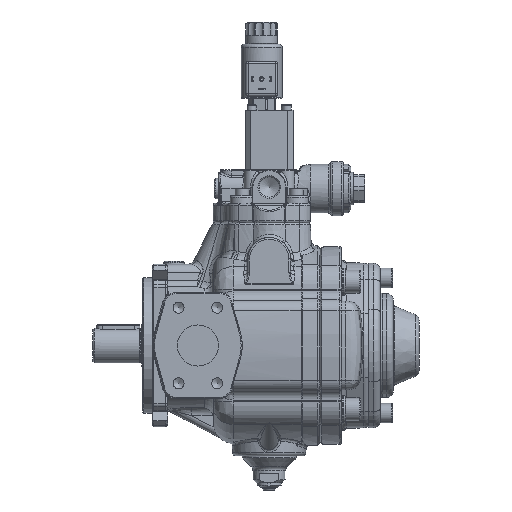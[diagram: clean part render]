
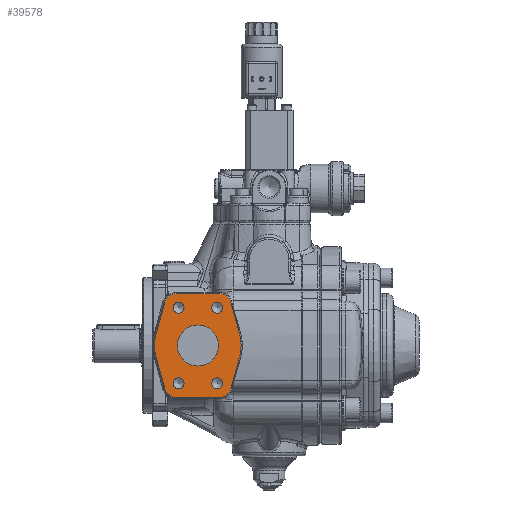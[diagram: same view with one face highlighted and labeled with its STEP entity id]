
A CAD part, left-side view. The second image highlights one B-rep face of the part: STEP entity #39578.
In plain terms, the highlighted planar face has unit normal (-1, 0, 0).
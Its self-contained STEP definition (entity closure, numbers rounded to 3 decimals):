
#2675=LINE('',#80279,#4959);
#2676=LINE('',#80283,#4960);
#2677=LINE('',#80287,#4961);
#2678=LINE('',#80291,#4962);
#2679=LINE('',#80295,#4963);
#2680=LINE('',#80299,#4964);
#4959=VECTOR('',#51095,10.);
#4960=VECTOR('',#51098,10.);
#4961=VECTOR('',#51101,10.);
#4962=VECTOR('',#51104,10.);
#4963=VECTOR('',#51107,10.);
#4964=VECTOR('',#51110,10.);
#6231=FACE_BOUND('',#11048,.T.);
#6232=FACE_BOUND('',#11049,.T.);
#6233=FACE_BOUND('',#11050,.T.);
#6234=FACE_BOUND('',#11051,.T.);
#6235=FACE_BOUND('',#11052,.T.);
#6815=PLANE('',#42885);
#8712=FACE_OUTER_BOUND('',#11047,.T.);
#11047=EDGE_LOOP('',(#32076,#32077,#32078,#32079,#32080,#32081,#32082,#32083,
#32084,#32085,#32086,#32087));
#11048=EDGE_LOOP('',(#32088));
#11049=EDGE_LOOP('',(#32089,#32090));
#11050=EDGE_LOOP('',(#32091,#32092));
#11051=EDGE_LOOP('',(#32093,#32094));
#11052=EDGE_LOOP('',(#32095,#32096));
#13356=CIRCLE('',#41576,19.);
#13539=CIRCLE('',#41873,5.053);
#13540=CIRCLE('',#41874,5.053);
#13543=CIRCLE('',#41879,5.053);
#13544=CIRCLE('',#41880,5.053);
#13547=CIRCLE('',#41885,5.053);
#13548=CIRCLE('',#41886,5.053);
#13551=CIRCLE('',#41891,5.053);
#13552=CIRCLE('',#41892,5.053);
#14132=CIRCLE('',#42886,11.);
#14133=CIRCLE('',#42887,40.);
#14134=CIRCLE('',#42888,11.);
#14135=CIRCLE('',#42889,11.);
#14136=CIRCLE('',#42890,40.);
#14137=CIRCLE('',#42891,11.);
#16190=VERTEX_POINT('',#64334);
#16398=VERTEX_POINT('',#66000);
#16399=VERTEX_POINT('',#66001);
#16403=VERTEX_POINT('',#66013);
#16404=VERTEX_POINT('',#66014);
#16408=VERTEX_POINT('',#66026);
#16409=VERTEX_POINT('',#66027);
#16413=VERTEX_POINT('',#66039);
#16414=VERTEX_POINT('',#66040);
#17361=VERTEX_POINT('',#80277);
#17362=VERTEX_POINT('',#80278);
#17363=VERTEX_POINT('',#80280);
#17364=VERTEX_POINT('',#80282);
#17365=VERTEX_POINT('',#80284);
#17366=VERTEX_POINT('',#80286);
#17367=VERTEX_POINT('',#80288);
#17368=VERTEX_POINT('',#80290);
#17369=VERTEX_POINT('',#80292);
#17370=VERTEX_POINT('',#80294);
#17371=VERTEX_POINT('',#80296);
#17372=VERTEX_POINT('',#80298);
#20497=EDGE_CURVE('',#16190,#16190,#13356,.T.);
#20827=EDGE_CURVE('',#16398,#16399,#13539,.T.);
#20828=EDGE_CURVE('',#16399,#16398,#13540,.T.);
#20833=EDGE_CURVE('',#16403,#16404,#13543,.T.);
#20834=EDGE_CURVE('',#16404,#16403,#13544,.T.);
#20839=EDGE_CURVE('',#16408,#16409,#13547,.T.);
#20840=EDGE_CURVE('',#16409,#16408,#13548,.T.);
#20845=EDGE_CURVE('',#16413,#16414,#13551,.T.);
#20846=EDGE_CURVE('',#16414,#16413,#13552,.T.);
#22471=EDGE_CURVE('',#17361,#17362,#2675,.T.);
#22472=EDGE_CURVE('',#17363,#17361,#14132,.T.);
#22473=EDGE_CURVE('',#17364,#17363,#2676,.T.);
#22474=EDGE_CURVE('',#17365,#17364,#14133,.T.);
#22475=EDGE_CURVE('',#17366,#17365,#2677,.T.);
#22476=EDGE_CURVE('',#17367,#17366,#14134,.T.);
#22477=EDGE_CURVE('',#17368,#17367,#2678,.T.);
#22478=EDGE_CURVE('',#17369,#17368,#14135,.T.);
#22479=EDGE_CURVE('',#17370,#17369,#2679,.T.);
#22480=EDGE_CURVE('',#17371,#17370,#14136,.T.);
#22481=EDGE_CURVE('',#17372,#17371,#2680,.T.);
#22482=EDGE_CURVE('',#17362,#17372,#14137,.T.);
#32076=ORIENTED_EDGE('',*,*,#22471,.F.);
#32077=ORIENTED_EDGE('',*,*,#22472,.F.);
#32078=ORIENTED_EDGE('',*,*,#22473,.F.);
#32079=ORIENTED_EDGE('',*,*,#22474,.F.);
#32080=ORIENTED_EDGE('',*,*,#22475,.F.);
#32081=ORIENTED_EDGE('',*,*,#22476,.F.);
#32082=ORIENTED_EDGE('',*,*,#22477,.F.);
#32083=ORIENTED_EDGE('',*,*,#22478,.F.);
#32084=ORIENTED_EDGE('',*,*,#22479,.F.);
#32085=ORIENTED_EDGE('',*,*,#22480,.F.);
#32086=ORIENTED_EDGE('',*,*,#22481,.F.);
#32087=ORIENTED_EDGE('',*,*,#22482,.F.);
#32088=ORIENTED_EDGE('',*,*,#20497,.T.);
#32089=ORIENTED_EDGE('',*,*,#20827,.T.);
#32090=ORIENTED_EDGE('',*,*,#20828,.T.);
#32091=ORIENTED_EDGE('',*,*,#20833,.T.);
#32092=ORIENTED_EDGE('',*,*,#20834,.T.);
#32093=ORIENTED_EDGE('',*,*,#20839,.T.);
#32094=ORIENTED_EDGE('',*,*,#20840,.T.);
#32095=ORIENTED_EDGE('',*,*,#20845,.T.);
#32096=ORIENTED_EDGE('',*,*,#20846,.T.);
#39578=ADVANCED_FACE('',(#8712,#6231,#6232,#6233,#6234,#6235),#6815,.F.);
#41576=AXIS2_PLACEMENT_3D('',#64335,#47878,#47879);
#41873=AXIS2_PLACEMENT_3D('',#66002,#48557,#48558);
#41874=AXIS2_PLACEMENT_3D('',#66003,#48559,#48560);
#41879=AXIS2_PLACEMENT_3D('',#66015,#48571,#48572);
#41880=AXIS2_PLACEMENT_3D('',#66016,#48573,#48574);
#41885=AXIS2_PLACEMENT_3D('',#66028,#48585,#48586);
#41886=AXIS2_PLACEMENT_3D('',#66029,#48587,#48588);
#41891=AXIS2_PLACEMENT_3D('',#66041,#48599,#48600);
#41892=AXIS2_PLACEMENT_3D('',#66042,#48601,#48602);
#42885=AXIS2_PLACEMENT_3D('',#80276,#51093,#51094);
#42886=AXIS2_PLACEMENT_3D('',#80281,#51096,#51097);
#42887=AXIS2_PLACEMENT_3D('',#80285,#51099,#51100);
#42888=AXIS2_PLACEMENT_3D('',#80289,#51102,#51103);
#42889=AXIS2_PLACEMENT_3D('',#80293,#51105,#51106);
#42890=AXIS2_PLACEMENT_3D('',#80297,#51108,#51109);
#42891=AXIS2_PLACEMENT_3D('',#80300,#51111,#51112);
#47878=DIRECTION('center_axis',(1.,0.,0.));
#47879=DIRECTION('ref_axis',(0.,-1.,0.));
#48557=DIRECTION('center_axis',(1.,0.,0.));
#48558=DIRECTION('ref_axis',(0.,0.,1.));
#48559=DIRECTION('center_axis',(1.,0.,0.));
#48560=DIRECTION('ref_axis',(0.,0.,1.));
#48571=DIRECTION('center_axis',(1.,0.,0.));
#48572=DIRECTION('ref_axis',(0.,0.,1.));
#48573=DIRECTION('center_axis',(1.,0.,0.));
#48574=DIRECTION('ref_axis',(0.,0.,1.));
#48585=DIRECTION('center_axis',(1.,0.,0.));
#48586=DIRECTION('ref_axis',(0.,0.,1.));
#48587=DIRECTION('center_axis',(1.,0.,0.));
#48588=DIRECTION('ref_axis',(0.,0.,1.));
#48599=DIRECTION('center_axis',(1.,0.,0.));
#48600=DIRECTION('ref_axis',(0.,0.,1.));
#48601=DIRECTION('center_axis',(1.,0.,0.));
#48602=DIRECTION('ref_axis',(0.,0.,1.));
#51093=DIRECTION('center_axis',(1.,0.,0.));
#51094=DIRECTION('ref_axis',(0.,0.,-1.));
#51095=DIRECTION('',(0.,1.,0.));
#51096=DIRECTION('center_axis',(1.,0.,0.));
#51097=DIRECTION('ref_axis',(0.,-0.964,-0.267));
#51098=DIRECTION('',(0.,0.267,-0.964));
#51099=DIRECTION('center_axis',(1.,0.,0.));
#51100=DIRECTION('ref_axis',(0.,-0.964,0.267));
#51101=DIRECTION('',(0.,-0.267,-0.964));
#51102=DIRECTION('center_axis',(1.,0.,0.));
#51103=DIRECTION('ref_axis',(0.,0.,1.));
#51104=DIRECTION('',(0.,-1.,0.));
#51105=DIRECTION('center_axis',(1.,0.,0.));
#51106=DIRECTION('ref_axis',(0.,0.964,0.267));
#51107=DIRECTION('',(0.,-0.267,0.964));
#51108=DIRECTION('center_axis',(1.,0.,0.));
#51109=DIRECTION('ref_axis',(0.,0.964,-0.267));
#51110=DIRECTION('',(0.,0.267,0.964));
#51111=DIRECTION('center_axis',(1.,0.,0.));
#51112=DIRECTION('ref_axis',(0.,0.,-1.));
#64334=CARTESIAN_POINT('',(-98.542,48.778,-9.476));
#64335=CARTESIAN_POINT('Origin',(-98.542,29.778,-9.476));
#66000=CARTESIAN_POINT('',(-98.542,47.628,-39.373));
#66001=CARTESIAN_POINT('',(-98.542,47.628,-49.479));
#66002=CARTESIAN_POINT('Origin',(-98.542,47.628,-44.426));
#66003=CARTESIAN_POINT('Origin',(-98.542,47.628,-44.426));
#66013=CARTESIAN_POINT('',(-98.542,11.928,30.527));
#66014=CARTESIAN_POINT('',(-98.542,11.928,20.421));
#66015=CARTESIAN_POINT('Origin',(-98.542,11.928,25.474));
#66016=CARTESIAN_POINT('Origin',(-98.542,11.928,25.474));
#66026=CARTESIAN_POINT('',(-98.542,47.628,30.527));
#66027=CARTESIAN_POINT('',(-98.542,47.628,20.421));
#66028=CARTESIAN_POINT('Origin',(-98.542,47.628,25.474));
#66029=CARTESIAN_POINT('Origin',(-98.542,47.628,25.474));
#66039=CARTESIAN_POINT('',(-98.542,11.928,-39.373));
#66040=CARTESIAN_POINT('',(-98.542,11.928,-49.479));
#66041=CARTESIAN_POINT('Origin',(-98.542,11.928,-44.426));
#66042=CARTESIAN_POINT('Origin',(-98.542,11.928,-44.426));
#80276=CARTESIAN_POINT('Origin',(-98.542,29.778,-9.476));
#80277=CARTESIAN_POINT('',(-98.542,9.928,-57.476));
#80278=CARTESIAN_POINT('',(-98.542,49.628,-57.476));
#80279=CARTESIAN_POINT('',(-98.542,19.853,-57.476));
#80280=CARTESIAN_POINT('',(-98.542,-0.673,-49.41));
#80281=CARTESIAN_POINT('Origin',(-98.542,9.928,-46.476));
#80282=CARTESIAN_POINT('',(-98.542,-8.772,-20.145));
#80283=CARTESIAN_POINT('',(-98.542,-8.772,-20.145));
#80284=CARTESIAN_POINT('',(-98.542,-8.772,1.194));
#80285=CARTESIAN_POINT('Origin',(-98.542,29.778,-9.476));
#80286=CARTESIAN_POINT('',(-98.542,-0.673,30.458));
#80287=CARTESIAN_POINT('',(-98.542,-4.723,15.826));
#80288=CARTESIAN_POINT('',(-98.542,9.928,38.524));
#80289=CARTESIAN_POINT('Origin',(-98.542,9.928,27.524));
#80290=CARTESIAN_POINT('',(-98.542,49.628,38.524));
#80291=CARTESIAN_POINT('',(-98.542,39.703,38.524));
#80292=CARTESIAN_POINT('',(-98.542,60.23,30.458));
#80293=CARTESIAN_POINT('Origin',(-98.542,49.628,27.524));
#80294=CARTESIAN_POINT('',(-98.542,68.329,1.194));
#80295=CARTESIAN_POINT('',(-98.542,68.329,1.194));
#80296=CARTESIAN_POINT('',(-98.542,68.329,-20.145));
#80297=CARTESIAN_POINT('Origin',(-98.542,29.778,-9.476));
#80298=CARTESIAN_POINT('',(-98.542,60.23,-49.41));
#80299=CARTESIAN_POINT('',(-98.542,64.279,-34.777));
#80300=CARTESIAN_POINT('Origin',(-98.542,49.628,-46.476));
